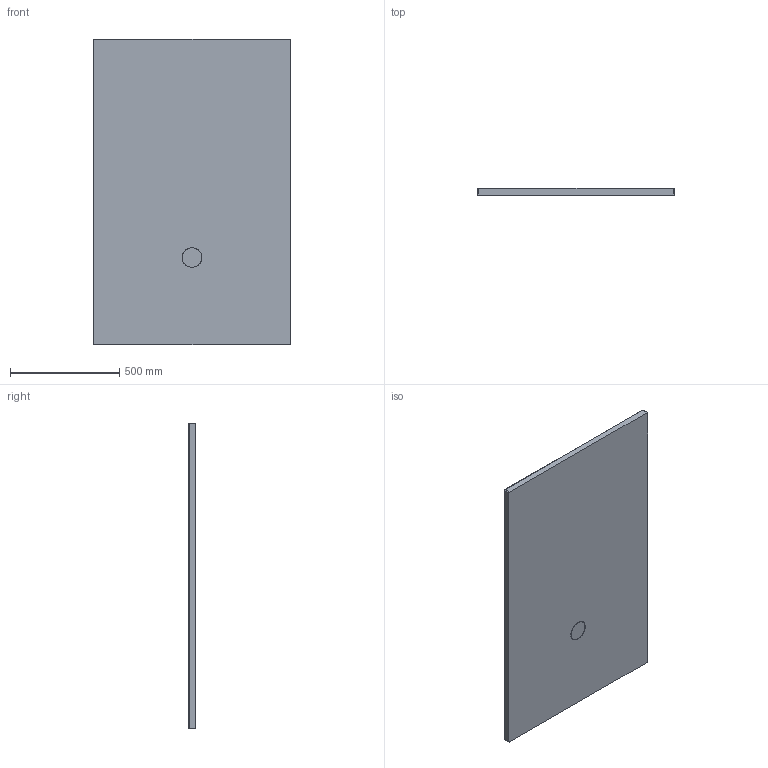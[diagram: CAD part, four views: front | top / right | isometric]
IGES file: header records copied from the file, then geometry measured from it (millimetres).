
Start section: SolidWorks IGES file using analytic representation for surfaces
Global section: file name: D:\Users\M.Szymanski\Desktop\Brodziki\Nias\B_M_NIAS_140x90x1,5.IGS; native system: SolidWorks 2011; preprocessor: SolidWorks 2011; author: M.Szymanski; date: 180222.142255; units: millimetre
Bounding box: 900 x 30 x 1400 mm (x, y, z)
Surface area: 2675836.7 mm2 (no closed solid volume)
Topology: 0 solids, 0 shells, 45 faces, 667 edges, 666 vertices
Faces by surface type: bspline 25, revolution 20
